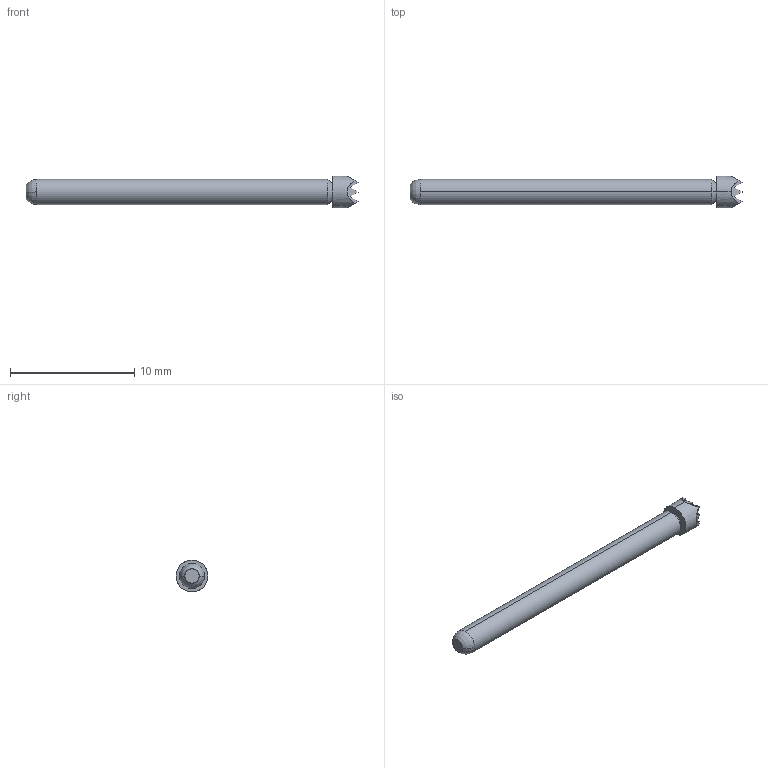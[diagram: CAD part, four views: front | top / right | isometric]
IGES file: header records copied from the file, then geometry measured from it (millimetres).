
Start section: SolidWorks IGES file using analytic representation for surfaces
Global section: file name: C:\Documents and Settings\mrumschlag\Desktop\changes\new\test\EPA-3H Full.IGS; native system: SolidWorks 2008; preprocessor: SolidWorks 2008; author: mrumschlag; date: 110414.162810; units: inch
Bounding box: 26.67 x 2.54 x 2.54 mm (x, y, z)
Surface area: 183.6 mm2 (no closed solid volume)
Topology: 0 solids, 0 shells, 38 faces, 242 edges, 242 vertices
Faces by surface type: bspline 30, revolution 8
